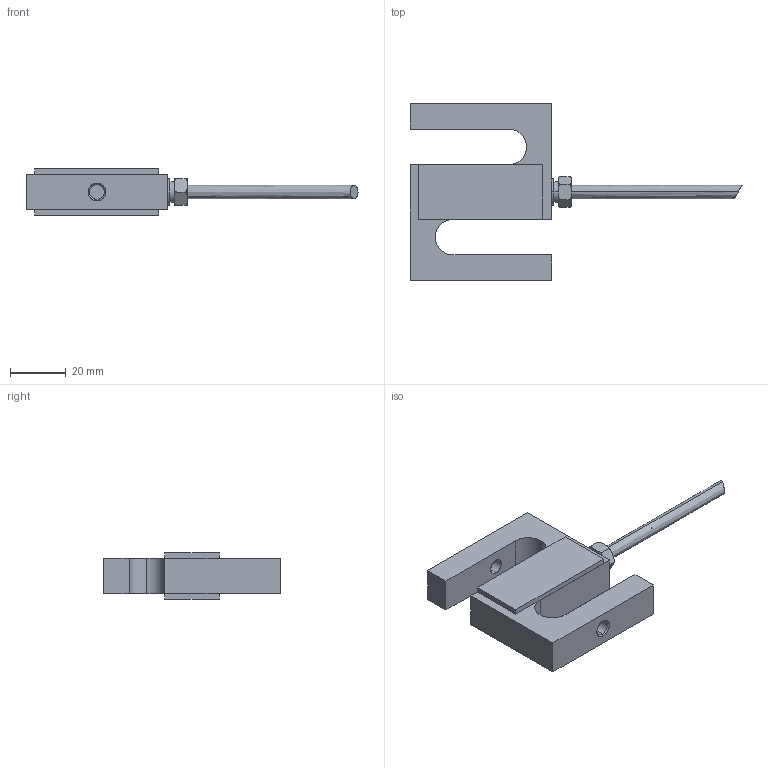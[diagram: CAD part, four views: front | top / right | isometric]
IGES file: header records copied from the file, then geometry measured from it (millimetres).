
Start section: SolidWorks IGES file using analytic representation for surfaces
Global section: file name: C:\Users\nasc01\Desktop\Assemblies for Conversion\Load_Cell_HISTS\Load_Cell_HISTS_3D\Load_Cell_HISTS.IGS; native system: SolidWorks 2013; preprocessor: SolidWorks 2013; author: nasc01; date: 141007.171817; units: millimetre
Bounding box: 118.95 x 63.5 x 16.6 mm (x, y, z)
Surface area: 11978.4 mm2 (no closed solid volume)
Topology: 0 solids, 0 shells, 82 faces, 1422 edges, 1422 vertices
Faces by surface type: bspline 43, revolution 39
